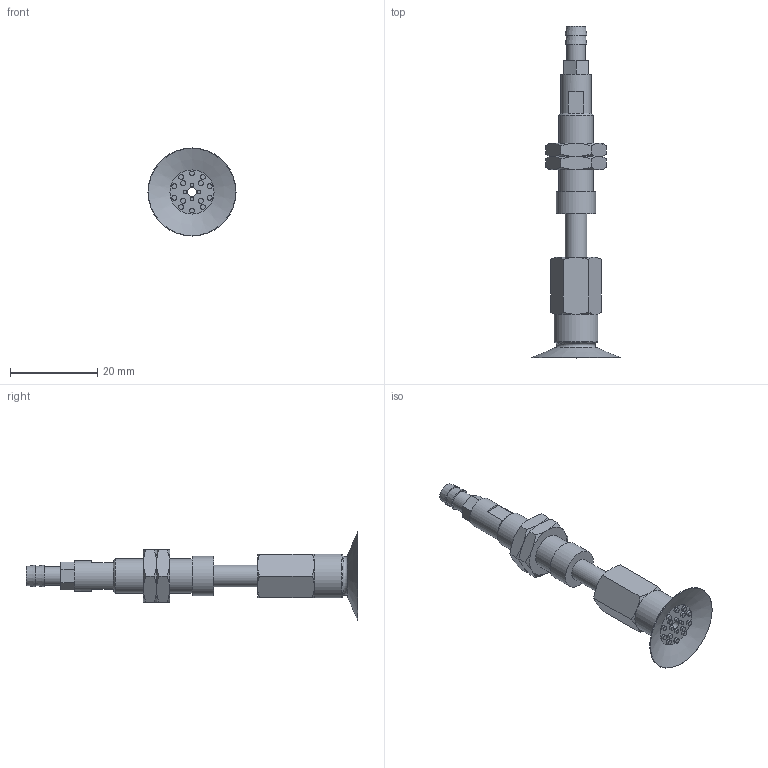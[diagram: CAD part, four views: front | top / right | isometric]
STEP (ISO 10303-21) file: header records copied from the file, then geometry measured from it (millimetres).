
FILE_DESCRIPTION(('STEP AP203'),'1');
FILE_NAME('-T.stp','2025-08-26T08:56:51',(' '),(' '),'Spatial InterOp 3D',' ',' ');
FILE_SCHEMA(('CONFIG_CONTROL_DESIGN'));
Length unit declared in the file: millimetre
Products named in the file (7): BNABPATS-20A-10-※-T; ADAPTER; NAPATS-10A-10--M; NAPATS-20A-10--F; Nut-10A-S; BPAG-20A-※_3D; T
Assembly tree (7 placements, depth 2):
  BNABPATS-20A-10-※-T
    ADAPTER
    NAPATS-10A-10--M
    NAPATS-20A-10--F
    Nut-10A-S  x2
    BPAG-20A-※_3D
    T
Bounding box: 20.19 x 76 x 20.19 mm (x, y, z)
Volume: 3997.4 mm3; surface area: 5082.6 mm2
Topology: 7 solids, 7 shells, 167 faces, 325 edges, 201 vertices
Faces by surface type: plane 71, cone 49, cylinder 37, torus 10
Full cylindrical faces by diameter (mm): 0.9 x4, 1.1 x14, 2 x3, 3 x1, 4 x2, 4.134 x1, 4.3 x1, 5 x3, 6 x2, 7 x1, 7.188 x2, 8 x1, 9 x1, 10 x1
Entity records: 3846 total; most frequent: CARTESIAN_POINT 814, DIRECTION 588, ORIENTED_EDGE 420, AXIS2_PLACEMENT_3D 274, EDGE_LOOP 242, EDGE_CURVE 210, FACE_OUTER_BOUND 190, VERTEX_POINT 164
